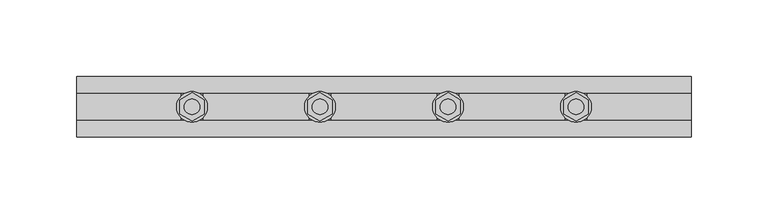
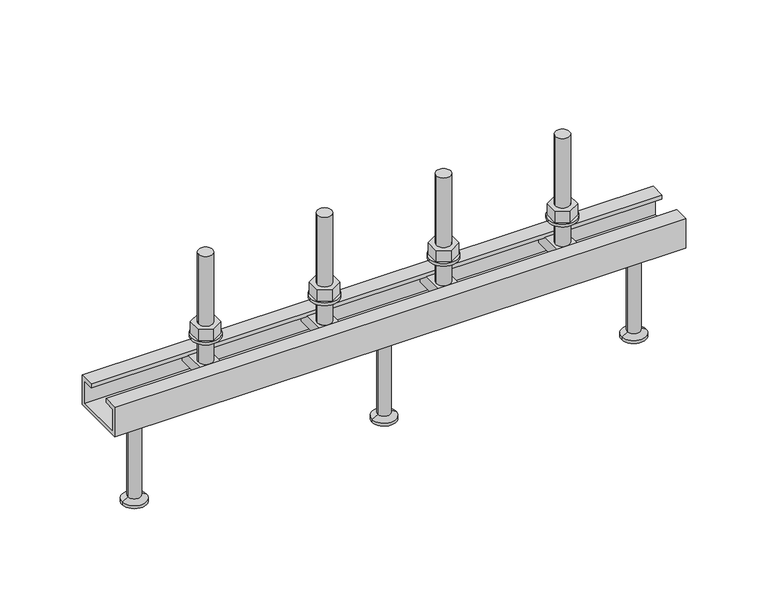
"""IFC4 building model written with IfcOpenShell, lengths in millimetres: fastener geometry, JTA-W JORDAHL® AnchorChannels : JTA-W L=400 mm."""

from ifc_helpers import new_model, si_unit, point, frame, frame_2d, origin, place, context, project, spatial, polyline, circle_curve, trimmed, segment, composite_curve, outline, extrude, source, transform, mapped, element, save
from ifc_brep_helpers import plane_surface, cylinder_surface, revolved_surface, advanced_brep


def fastener_f6934170(model_context):
    return source(origin(), model_context, "Body", "SolidModel", [
        extrude(outline(polyline([(241.6666667, 9.2376043), (249.6666667, 4.6188022), (249.6666667, -4.6188022), (241.6666667, -9.2376043), (233.6666667, -4.6188022), (233.6666667, 4.6188022), (241.6666667, 9.2376043)]), holes=[composite_curve([segment(trimmed(circle_curve(frame_2d((241.6666667, 0.0)), 5.0), [point((236.6666667, 0.0))], [point((246.6666667, 0.0))], True, "CARTESIAN"), True, "CONTINUOUS"), segment(trimmed(circle_curve(frame_2d((241.6666667, 0.0)), 5.0), [point((246.6666667, 0.0))], [point((236.6666667, 0.0))], True, "CARTESIAN"), True, "CONTINUOUS")], self_intersect=False)]), frame((0.0, 0.0, 17.0), z_axis=(0.0, 0.0, 1.0), x_axis=(1.0, 0.0, 0.0)), (0.0, 0.0, 1.0), 8.4),
        extrude(outline(composite_curve([segment(trimmed(circle_curve(frame_2d((241.6666667, 0.0)), 10.0), [point((231.6666667, 0.0))], [point((251.6666667, 0.0))], False, "CARTESIAN"), True, "CONTINUOUS"), segment(trimmed(circle_curve(frame_2d((241.6666667, 0.0)), 10.0), [point((251.6666667, 0.0))], [point((231.6666667, 0.0))], False, "CARTESIAN"), True, "CONTINUOUS")], self_intersect=False), holes=[composite_curve([segment(trimmed(circle_curve(frame_2d((241.6666667, 0.0)), 5.25), [point((236.4166667, 0.0))], [point((246.9166667, 0.0))], True, "CARTESIAN"), True, "CONTINUOUS"), segment(trimmed(circle_curve(frame_2d((241.6666667, 0.0)), 5.25), [point((246.9166667, 0.0))], [point((236.4166667, 0.0))], True, "CARTESIAN"), True, "CONTINUOUS")], self_intersect=False)]), frame((0.0, 0.0, 15.0), z_axis=(0.0, 0.0, 1.0), x_axis=(1.0, 0.0, 0.0)), (0.0, 0.0, 1.0), 2.0),
        extrude(outline(polyline([(158.3333333, 9.2376043), (166.3333333, 4.6188022), (166.3333333, -4.6188022), (158.3333333, -9.2376043), (150.3333333, -4.6188022), (150.3333333, 4.6188022), (158.3333333, 9.2376043)]), holes=[composite_curve([segment(trimmed(circle_curve(frame_2d((158.3333333, 0.0)), 5.0), [point((153.3333333, 0.0))], [point((163.3333333, 0.0))], True, "CARTESIAN"), True, "CONTINUOUS"), segment(trimmed(circle_curve(frame_2d((158.3333333, 0.0)), 5.0), [point((163.3333333, 0.0))], [point((153.3333333, 0.0))], True, "CARTESIAN"), True, "CONTINUOUS")], self_intersect=False)]), frame((0.0, 0.0, 17.0), z_axis=(0.0, 0.0, 1.0), x_axis=(1.0, 0.0, 0.0)), (0.0, 0.0, 1.0), 8.4),
        extrude(outline(composite_curve([segment(trimmed(circle_curve(frame_2d((158.3333333, 0.0)), 10.0), [point((148.3333333, 0.0))], [point((168.3333333, 0.0))], False, "CARTESIAN"), True, "CONTINUOUS"), segment(trimmed(circle_curve(frame_2d((158.3333333, 0.0)), 10.0), [point((168.3333333, 0.0))], [point((148.3333333, 0.0))], False, "CARTESIAN"), True, "CONTINUOUS")], self_intersect=False), holes=[composite_curve([segment(trimmed(circle_curve(frame_2d((158.3333333, 0.0)), 5.25), [point((153.0833333, 0.0))], [point((163.5833333, 0.0))], True, "CARTESIAN"), True, "CONTINUOUS"), segment(trimmed(circle_curve(frame_2d((158.3333333, 0.0)), 5.25), [point((163.5833333, 0.0))], [point((153.0833333, 0.0))], True, "CARTESIAN"), True, "CONTINUOUS")], self_intersect=False)]), frame((0.0, 0.0, 15.0), z_axis=(0.0, 0.0, 1.0), x_axis=(1.0, 0.0, 0.0)), (0.0, 0.0, 1.0), 2.0),
        advanced_brep(
        [(248.6666667, 16.25, -3.0), (248.6666667, -16.25, -3.0), (248.6666667, -16.25, -11.0), (248.6666667, 16.25, -11.0), (234.6666667, 16.25, -3.0), (234.6666667, 16.25, -11.0), (234.6666667, -16.25, -11.0), (234.6666667, -16.25, -3.0), (246.6666667, 0.0, -3.0), (236.6666667, 0.0, -3.0), (236.6666667, 0.0, 77.0), (246.6666667, 0.0, 77.0)],
        [
            (0, 1),
            (1, 2),
            (2, 3),
            (3, 0),
            (4, 5),
            (5, 6),
            (6, 7),
            (7, 4),
            (0, 4),
            (7, 1),
            (8, 9, circle_curve(frame((241.6666667, 0.0, -3.0), z_axis=(0.0, 0.0, -1.0), x_axis=(1.0, 0.0, 0.0)), 5.0)),
            (9, 8, circle_curve(frame((241.6666667, 0.0, -3.0), z_axis=(0.0, 0.0, -1.0), x_axis=(1.0, 0.0, 0.0)), 5.0)),
            (6, 2),
            (5, 3),
            (10, 11, circle_curve(frame((241.6666667, 0.0, 77.0), z_axis=(0.0, 0.0, 1.0), x_axis=(1.0, 0.0, 0.0)), 5.0)),
            (11, 10, circle_curve(frame((241.6666667, 0.0, 77.0), z_axis=(0.0, 0.0, 1.0), x_axis=(1.0, 0.0, 0.0)), 5.0)),
            (10, 9),
            (8, 11),
        ],
        [
            plane_surface(frame((248.6666667, -16.25, -3.0), z_axis=(1.0, 0.0, 0.0), x_axis=(0.0, -1.0, 0.0))),
            plane_surface(frame((234.6666667, -16.25, -3.0), z_axis=(-1.0, 0.0, 0.0), x_axis=(0.0, 1.0, 0.0))),
            plane_surface(frame((248.6666667, 16.25, -3.0), z_axis=(0.0, 0.0, 1.0), x_axis=(-1.0, 0.0, 0.0))),
            plane_surface(frame((248.6666667, -16.25, -3.0), z_axis=(0.0, -1.0, 0.0), x_axis=(-1.0, 0.0, 0.0))),
            plane_surface(frame((248.6666667, -16.25, -11.0), z_axis=(0.0, 0.0, -1.0), x_axis=(-1.0, 0.0, 0.0))),
            plane_surface(frame((248.6666667, 16.25, -11.0), z_axis=(0.0, 1.0, 0.0), x_axis=(-1.0, 0.0, 0.0))),
            plane_surface(frame((246.6666667, 0.0, 77.0), z_axis=(0.0, 0.0, 1.0), x_axis=(0.0, 1.0, 0.0))),
            cylinder_surface(frame((241.6666667, 0.0, -3.0), z_axis=(0.0, 0.0, 1.0), x_axis=(1.0, 0.0, 0.0)), 5.0),
        ],
        [
            (0, [[1, 2, 3, 4]]),
            (1, [[5, 6, 7, 8]]),
            (2, [[-1, 9, -8, 10], [11, 12]]),
            (3, [[-2, -10, -7, 13]]),
            (4, [[-3, -13, -6, 14]]),
            (5, [[-4, -14, -5, -9]]),
            (6, [[15, 16]]),
            (7, [[-15, 17, -11, 18]]),
            (7, [[-16, -18, -12, -17]]),
        ],
    ),
        advanced_brep(
        [(165.3333333, 16.25, -3.0), (165.3333333, -16.25, -3.0), (165.3333333, -16.25, -11.0), (165.3333333, 16.25, -11.0), (151.3333333, 16.25, -3.0), (151.3333333, 16.25, -11.0), (151.3333333, -16.25, -11.0), (151.3333333, -16.25, -3.0), (163.3333333, 0.0, -3.0), (153.3333333, 0.0, -3.0), (153.3333333, 0.0, 77.0), (163.3333333, 0.0, 77.0)],
        [
            (0, 1),
            (1, 2),
            (2, 3),
            (3, 0),
            (4, 5),
            (5, 6),
            (6, 7),
            (7, 4),
            (0, 4),
            (7, 1),
            (8, 9, circle_curve(frame((158.3333333, 0.0, -3.0), z_axis=(0.0, 0.0, -1.0), x_axis=(1.0, 0.0, 0.0)), 5.0)),
            (9, 8, circle_curve(frame((158.3333333, 0.0, -3.0), z_axis=(0.0, 0.0, -1.0), x_axis=(1.0, 0.0, 0.0)), 5.0)),
            (6, 2),
            (5, 3),
            (10, 11, circle_curve(frame((158.3333333, 0.0, 77.0), z_axis=(0.0, 0.0, 1.0), x_axis=(1.0, 0.0, 0.0)), 5.0)),
            (11, 10, circle_curve(frame((158.3333333, 0.0, 77.0), z_axis=(0.0, 0.0, 1.0), x_axis=(1.0, 0.0, 0.0)), 5.0)),
            (10, 9),
            (8, 11),
        ],
        [
            plane_surface(frame((165.3333333, -16.25, -3.0), z_axis=(1.0, 0.0, 0.0), x_axis=(0.0, -1.0, 0.0))),
            plane_surface(frame((151.3333333, -16.25, -3.0), z_axis=(-1.0, 0.0, 0.0), x_axis=(0.0, 1.0, 0.0))),
            plane_surface(frame((165.3333333, 16.25, -3.0), z_axis=(0.0, 0.0, 1.0), x_axis=(-1.0, 0.0, 0.0))),
            plane_surface(frame((165.3333333, -16.25, -3.0), z_axis=(0.0, -1.0, 0.0), x_axis=(-1.0, 0.0, 0.0))),
            plane_surface(frame((165.3333333, -16.25, -11.0), z_axis=(0.0, 0.0, -1.0), x_axis=(-1.0, 0.0, 0.0))),
            plane_surface(frame((165.3333333, 16.25, -11.0), z_axis=(0.0, 1.0, 0.0), x_axis=(-1.0, 0.0, 0.0))),
            plane_surface(frame((163.3333333, 0.0, 77.0), z_axis=(0.0, 0.0, 1.0), x_axis=(0.0, 1.0, 0.0))),
            cylinder_surface(frame((158.3333333, 0.0, -3.0), z_axis=(0.0, 0.0, 1.0), x_axis=(1.0, 0.0, 0.0)), 5.0),
        ],
        [
            (0, [[1, 2, 3, 4]]),
            (1, [[5, 6, 7, 8]]),
            (2, [[-1, 9, -8, 10], [11, 12]]),
            (3, [[-2, -10, -7, 13]]),
            (4, [[-3, -13, -6, 14]]),
            (5, [[-4, -14, -5, -9]]),
            (6, [[15, 16]]),
            (7, [[-15, 17, -11, 18]]),
            (7, [[-16, -18, -12, -17]]),
        ],
    ),
        advanced_brep(
        [(200.0, 0.0, -22.0), (213.5, 0.0, -22.0), (186.5, 0.0, -22.0), (191.5, 0.0, -90.0), (208.5, 0.0, -90.0), (200.0, 0.0, -90.0), (191.5, 0.0, -88.0), (208.5, 0.0, -88.0), (195.5, 0.0, -85.6905989), (204.5, 0.0, -85.6905989), (195.5, 0.0, -24.5), (204.5, 0.0, -24.5)],
        [
            (0, 1),
            (1, 2, circle_curve(frame((200.0, 0.0, -22.0), z_axis=(0.0, 0.0, 1.0), x_axis=(1.0, 0.0, 0.0)), 13.5)),
            (2, 0),
            (2, 1, circle_curve(frame((200.0, 0.0, -22.0), z_axis=(0.0, 0.0, 1.0), x_axis=(1.0, 0.0, 0.0)), 13.5)),
            (3, 4, circle_curve(frame((200.0, 0.0, -90.0), z_axis=(0.0, 0.0, -1.0), x_axis=(1.0, 0.0, 0.0)), 8.5)),
            (4, 5),
            (5, 3),
            (4, 3, circle_curve(frame((200.0, 0.0, -90.0), z_axis=(0.0, 0.0, -1.0), x_axis=(1.0, 0.0, 0.0)), 8.5)),
            (6, 7, circle_curve(frame((200.0, 0.0, -88.0), z_axis=(0.0, 0.0, -1.0), x_axis=(1.0, 0.0, 0.0)), 8.5)),
            (7, 4),
            (3, 6),
            (7, 6, circle_curve(frame((200.0, 0.0, -88.0), z_axis=(0.0, 0.0, -1.0), x_axis=(1.0, 0.0, 0.0)), 8.5)),
            (8, 9, circle_curve(frame((200.0, 0.0, -85.6905989), z_axis=(0.0, 0.0, -1.0), x_axis=(1.0, 0.0, 0.0)), 4.5)),
            (9, 7),
            (6, 8),
            (9, 8, circle_curve(frame((200.0, 0.0, -85.6905989), z_axis=(0.0, 0.0, -1.0), x_axis=(1.0, 0.0, 0.0)), 4.5)),
            (10, 11, circle_curve(frame((200.0, 0.0, -24.5), z_axis=(0.0, 0.0, -1.0), x_axis=(1.0, 0.0, 0.0)), 4.5)),
            (11, 9),
            (8, 10),
            (11, 10, circle_curve(frame((200.0, 0.0, -24.5), z_axis=(0.0, 0.0, -1.0), x_axis=(1.0, 0.0, 0.0)), 4.5)),
            (1, 11),
            (10, 2),
        ],
        [
            plane_surface(frame((200.0, 0.0, -22.0), z_axis=(0.0, 0.0, 1.0), x_axis=(1.0, 0.0, 0.0))),
            plane_surface(frame((200.0, 0.0, -90.0), z_axis=(0.0, 0.0, -1.0), x_axis=(1.0, 0.0, 0.0))),
            cylinder_surface(frame((200.0, 0.0, 2282.3150031), z_axis=(0.0, 0.0, 1.0), x_axis=(1.0, 0.0, 0.0)), 8.5),
            revolved_surface(polyline([(208.5, 0.0, -88.0), (204.5, 0.0, -85.6905989)]), (200.0, 0.0, 2282.3150031), (0.0, 0.0, 1.0)),
            cylinder_surface(frame((200.0, 0.0, 2282.3150031), z_axis=(0.0, 0.0, 1.0), x_axis=(1.0, 0.0, 0.0)), 4.5),
            revolved_surface(polyline([(204.5, 0.0, -24.5), (213.5, 0.0, -22.0)]), (200.0, 0.0, 2282.3150031), (0.0, 0.0, 1.0)),
        ],
        [
            (0, [[1, 2, 3]]),
            (0, [[-3, 4, -1]]),
            (1, [[5, 6, 7]]),
            (1, [[8, -7, -6]]),
            (2, [[9, 10, -5, 11]]),
            (2, [[12, -11, -8, -10]]),
            (3, [[13, 14, -9, 15]]),
            (3, [[16, -15, -12, -14]]),
            (4, [[17, 18, -13, 19]]),
            (4, [[20, -19, -16, -18]]),
            (5, [[-2, 21, -17, 22]]),
            (5, [[-4, -22, -20, -21]]),
        ],
    ),
        extrude(outline(polyline([(325.0, 9.2376043), (333.0, 4.6188022), (333.0, -4.6188022), (325.0, -9.2376043), (317.0, -4.6188022), (317.0, 4.6188022), (325.0, 9.2376043)]), holes=[composite_curve([segment(trimmed(circle_curve(frame_2d((325.0, 0.0)), 5.0), [point((320.0, 0.0))], [point((330.0, 0.0))], True, "CARTESIAN"), True, "CONTINUOUS"), segment(trimmed(circle_curve(frame_2d((325.0, 0.0)), 5.0), [point((330.0, 0.0))], [point((320.0, 0.0))], True, "CARTESIAN"), True, "CONTINUOUS")], self_intersect=False)]), frame((0.0, 0.0, 17.0), z_axis=(0.0, 0.0, 1.0), x_axis=(1.0, 0.0, 0.0)), (0.0, 0.0, 1.0), 8.4),
        extrude(outline(composite_curve([segment(trimmed(circle_curve(frame_2d((325.0, 0.0)), 10.0), [point((315.0, 0.0))], [point((335.0, 0.0))], False, "CARTESIAN"), True, "CONTINUOUS"), segment(trimmed(circle_curve(frame_2d((325.0, 0.0)), 10.0), [point((335.0, 0.0))], [point((315.0, 0.0))], False, "CARTESIAN"), True, "CONTINUOUS")], self_intersect=False), holes=[composite_curve([segment(trimmed(circle_curve(frame_2d((325.0, 0.0)), 5.25), [point((319.75, 0.0))], [point((330.25, 0.0))], True, "CARTESIAN"), True, "CONTINUOUS"), segment(trimmed(circle_curve(frame_2d((325.0, 0.0)), 5.25), [point((330.25, 0.0))], [point((319.75, 0.0))], True, "CARTESIAN"), True, "CONTINUOUS")], self_intersect=False)]), frame((0.0, 0.0, 15.0), z_axis=(0.0, 0.0, 1.0), x_axis=(1.0, 0.0, 0.0)), (0.0, 0.0, 1.0), 2.0),
        extrude(outline(polyline([(75.0, 9.2376043), (83.0, 4.6188022), (83.0, -4.6188022), (75.0, -9.2376043), (67.0, -4.6188022), (67.0, 4.6188022), (75.0, 9.2376043)]), holes=[composite_curve([segment(trimmed(circle_curve(frame_2d((75.0, 0.0)), 5.0), [point((70.0, 0.0))], [point((80.0, 0.0))], True, "CARTESIAN"), True, "CONTINUOUS"), segment(trimmed(circle_curve(frame_2d((75.0, 0.0)), 5.0), [point((80.0, 0.0))], [point((70.0, 0.0))], True, "CARTESIAN"), True, "CONTINUOUS")], self_intersect=False)]), frame((0.0, 0.0, 17.0), z_axis=(0.0, 0.0, 1.0), x_axis=(1.0, 0.0, 0.0)), (0.0, 0.0, 1.0), 8.4),
        extrude(outline(composite_curve([segment(trimmed(circle_curve(frame_2d((75.0, 0.0)), 10.0), [point((65.0, 0.0))], [point((85.0, 0.0))], False, "CARTESIAN"), True, "CONTINUOUS"), segment(trimmed(circle_curve(frame_2d((75.0, 0.0)), 10.0), [point((85.0, 0.0))], [point((65.0, 0.0))], False, "CARTESIAN"), True, "CONTINUOUS")], self_intersect=False), holes=[composite_curve([segment(trimmed(circle_curve(frame_2d((75.0, 0.0)), 5.25), [point((69.75, 0.0))], [point((80.25, 0.0))], True, "CARTESIAN"), True, "CONTINUOUS"), segment(trimmed(circle_curve(frame_2d((75.0, 0.0)), 5.25), [point((80.25, 0.0))], [point((69.75, 0.0))], True, "CARTESIAN"), True, "CONTINUOUS")], self_intersect=False)]), frame((0.0, 0.0, 15.0), z_axis=(0.0, 0.0, 1.0), x_axis=(1.0, 0.0, 0.0)), (0.0, 0.0, 1.0), 2.0),
        advanced_brep(
        [(332.0, 16.25, -3.0), (332.0, -16.25, -3.0), (332.0, -16.25, -11.0), (332.0, 16.25, -11.0), (318.0, 16.25, -3.0), (318.0, 16.25, -11.0), (318.0, -16.25, -11.0), (318.0, -16.25, -3.0), (330.0, 0.0, -3.0), (320.0, 0.0, -3.0), (320.0, 0.0, 77.0), (330.0, 0.0, 77.0)],
        [
            (0, 1),
            (1, 2),
            (2, 3),
            (3, 0),
            (4, 5),
            (5, 6),
            (6, 7),
            (7, 4),
            (0, 4),
            (7, 1),
            (8, 9, circle_curve(frame((325.0, 0.0, -3.0), z_axis=(0.0, 0.0, -1.0), x_axis=(1.0, 0.0, 0.0)), 5.0)),
            (9, 8, circle_curve(frame((325.0, 0.0, -3.0), z_axis=(0.0, 0.0, -1.0), x_axis=(1.0, 0.0, 0.0)), 5.0)),
            (6, 2),
            (5, 3),
            (10, 11, circle_curve(frame((325.0, 0.0, 77.0), z_axis=(0.0, 0.0, 1.0), x_axis=(1.0, 0.0, 0.0)), 5.0)),
            (11, 10, circle_curve(frame((325.0, 0.0, 77.0), z_axis=(0.0, 0.0, 1.0), x_axis=(1.0, 0.0, 0.0)), 5.0)),
            (10, 9),
            (8, 11),
        ],
        [
            plane_surface(frame((332.0, -16.25, -3.0), z_axis=(1.0, 0.0, 0.0), x_axis=(0.0, -1.0, 0.0))),
            plane_surface(frame((318.0, -16.25, -3.0), z_axis=(-1.0, 0.0, 0.0), x_axis=(0.0, 1.0, 0.0))),
            plane_surface(frame((332.0, 16.25, -3.0), z_axis=(0.0, 0.0, 1.0), x_axis=(-1.0, 0.0, 0.0))),
            plane_surface(frame((332.0, -16.25, -3.0), z_axis=(0.0, -1.0, 0.0), x_axis=(-1.0, 0.0, 0.0))),
            plane_surface(frame((332.0, -16.25, -11.0), z_axis=(0.0, 0.0, -1.0), x_axis=(-1.0, 0.0, 0.0))),
            plane_surface(frame((332.0, 16.25, -11.0), z_axis=(0.0, 1.0, 0.0), x_axis=(-1.0, 0.0, 0.0))),
            plane_surface(frame((330.0, 0.0, 77.0), z_axis=(0.0, 0.0, 1.0), x_axis=(0.0, 1.0, 0.0))),
            cylinder_surface(frame((325.0, 0.0, -3.0), z_axis=(0.0, 0.0, 1.0), x_axis=(1.0, 0.0, 0.0)), 5.0),
        ],
        [
            (0, [[1, 2, 3, 4]]),
            (1, [[5, 6, 7, 8]]),
            (2, [[-1, 9, -8, 10], [11, 12]]),
            (3, [[-2, -10, -7, 13]]),
            (4, [[-3, -13, -6, 14]]),
            (5, [[-4, -14, -5, -9]]),
            (6, [[15, 16]]),
            (7, [[-15, 17, -11, 18]]),
            (7, [[-16, -18, -12, -17]]),
        ],
    ),
        advanced_brep(
        [(82.0, 16.25, -3.0), (82.0, -16.25, -3.0), (82.0, -16.25, -11.0), (82.0, 16.25, -11.0), (68.0, 16.25, -3.0), (68.0, 16.25, -11.0), (68.0, -16.25, -11.0), (68.0, -16.25, -3.0), (80.0, 0.0, -3.0), (70.0, 0.0, -3.0), (70.0, 0.0, 77.0), (80.0, 0.0, 77.0)],
        [
            (0, 1),
            (1, 2),
            (2, 3),
            (3, 0),
            (4, 5),
            (5, 6),
            (6, 7),
            (7, 4),
            (0, 4),
            (7, 1),
            (8, 9, circle_curve(frame((75.0, 0.0, -3.0), z_axis=(0.0, 0.0, -1.0), x_axis=(1.0, 0.0, 0.0)), 5.0)),
            (9, 8, circle_curve(frame((75.0, 0.0, -3.0), z_axis=(0.0, 0.0, -1.0), x_axis=(1.0, 0.0, 0.0)), 5.0)),
            (6, 2),
            (5, 3),
            (10, 11, circle_curve(frame((75.0, 0.0, 77.0), z_axis=(0.0, 0.0, 1.0), x_axis=(1.0, 0.0, 0.0)), 5.0)),
            (11, 10, circle_curve(frame((75.0, 0.0, 77.0), z_axis=(0.0, 0.0, 1.0), x_axis=(1.0, 0.0, 0.0)), 5.0)),
            (10, 9),
            (8, 11),
        ],
        [
            plane_surface(frame((82.0, -16.25, -3.0), z_axis=(1.0, 0.0, 0.0), x_axis=(0.0, -1.0, 0.0))),
            plane_surface(frame((68.0, -16.25, -3.0), z_axis=(-1.0, 0.0, 0.0), x_axis=(0.0, 1.0, 0.0))),
            plane_surface(frame((82.0, 16.25, -3.0), z_axis=(0.0, 0.0, 1.0), x_axis=(-1.0, 0.0, 0.0))),
            plane_surface(frame((82.0, -16.25, -3.0), z_axis=(0.0, -1.0, 0.0), x_axis=(-1.0, 0.0, 0.0))),
            plane_surface(frame((82.0, -16.25, -11.0), z_axis=(0.0, 0.0, -1.0), x_axis=(-1.0, 0.0, 0.0))),
            plane_surface(frame((82.0, 16.25, -11.0), z_axis=(0.0, 1.0, 0.0), x_axis=(-1.0, 0.0, 0.0))),
            plane_surface(frame((80.0, 0.0, 77.0), z_axis=(0.0, 0.0, 1.0), x_axis=(0.0, 1.0, 0.0))),
            cylinder_surface(frame((75.0, 0.0, -3.0), z_axis=(0.0, 0.0, 1.0), x_axis=(1.0, 0.0, 0.0)), 5.0),
        ],
        [
            (0, [[1, 2, 3, 4]]),
            (1, [[5, 6, 7, 8]]),
            (2, [[-1, 9, -8, 10], [11, 12]]),
            (3, [[-2, -10, -7, 13]]),
            (4, [[-3, -13, -6, 14]]),
            (5, [[-4, -14, -5, -9]]),
            (6, [[15, 16]]),
            (7, [[-15, 17, -11, 18]]),
            (7, [[-16, -18, -12, -17]]),
        ],
    ),
        advanced_brep(
        [(375.0, 0.0, -22.0), (388.5, 0.0, -22.0), (361.5, 0.0, -22.0), (366.5, 0.0, -90.0), (383.5, 0.0, -90.0), (375.0, 0.0, -90.0), (366.5, 0.0, -88.0), (383.5, 0.0, -88.0), (370.5, 0.0, -85.6905989), (379.5, 0.0, -85.6905989), (370.5, 0.0, -24.5), (379.5, 0.0, -24.5)],
        [
            (0, 1),
            (1, 2, circle_curve(frame((375.0, 0.0, -22.0), z_axis=(0.0, 0.0, 1.0), x_axis=(1.0, 0.0, 0.0)), 13.5)),
            (2, 0),
            (2, 1, circle_curve(frame((375.0, 0.0, -22.0), z_axis=(0.0, 0.0, 1.0), x_axis=(1.0, 0.0, 0.0)), 13.5)),
            (3, 4, circle_curve(frame((375.0, 0.0, -90.0), z_axis=(0.0, 0.0, -1.0), x_axis=(1.0, 0.0, 0.0)), 8.5)),
            (4, 5),
            (5, 3),
            (4, 3, circle_curve(frame((375.0, 0.0, -90.0), z_axis=(0.0, 0.0, -1.0), x_axis=(1.0, 0.0, 0.0)), 8.5)),
            (6, 7, circle_curve(frame((375.0, 0.0, -88.0), z_axis=(0.0, 0.0, -1.0), x_axis=(1.0, 0.0, 0.0)), 8.5)),
            (7, 4),
            (3, 6),
            (7, 6, circle_curve(frame((375.0, 0.0, -88.0), z_axis=(0.0, 0.0, -1.0), x_axis=(1.0, 0.0, 0.0)), 8.5)),
            (8, 9, circle_curve(frame((375.0, 0.0, -85.6905989), z_axis=(0.0, 0.0, -1.0), x_axis=(1.0, 0.0, 0.0)), 4.5)),
            (9, 7),
            (6, 8),
            (9, 8, circle_curve(frame((375.0, 0.0, -85.6905989), z_axis=(0.0, 0.0, -1.0), x_axis=(1.0, 0.0, 0.0)), 4.5)),
            (10, 11, circle_curve(frame((375.0, 0.0, -24.5), z_axis=(0.0, 0.0, -1.0), x_axis=(1.0, 0.0, 0.0)), 4.5)),
            (11, 9),
            (8, 10),
            (11, 10, circle_curve(frame((375.0, 0.0, -24.5), z_axis=(0.0, 0.0, -1.0), x_axis=(1.0, 0.0, 0.0)), 4.5)),
            (1, 11),
            (10, 2),
        ],
        [
            plane_surface(frame((375.0, 0.0, -22.0), z_axis=(0.0, 0.0, 1.0), x_axis=(1.0, 0.0, 0.0))),
            plane_surface(frame((375.0, 0.0, -90.0), z_axis=(0.0, 0.0, -1.0), x_axis=(1.0, 0.0, 0.0))),
            cylinder_surface(frame((375.0, 0.0, 2282.3150031), z_axis=(0.0, 0.0, 1.0), x_axis=(1.0, 0.0, 0.0)), 8.5),
            revolved_surface(polyline([(383.5, 0.0, -88.0), (379.5, 0.0, -85.6905989)]), (375.0, 0.0, 2282.3150031), (0.0, 0.0, 1.0)),
            cylinder_surface(frame((375.0, 0.0, 2282.3150031), z_axis=(0.0, 0.0, 1.0), x_axis=(1.0, 0.0, 0.0)), 4.5),
            revolved_surface(polyline([(379.5, 0.0, -24.5), (388.5, 0.0, -22.0)]), (375.0, 0.0, 2282.3150031), (0.0, 0.0, 1.0)),
        ],
        [
            (0, [[1, 2, 3]]),
            (0, [[-3, 4, -1]]),
            (1, [[5, 6, 7]]),
            (1, [[8, -7, -6]]),
            (2, [[9, 10, -5, 11]]),
            (2, [[12, -11, -8, -10]]),
            (3, [[13, 14, -9, 15]]),
            (3, [[16, -15, -12, -14]]),
            (4, [[17, 18, -13, 19]]),
            (4, [[20, -19, -16, -18]]),
            (5, [[-2, 21, -17, 22]]),
            (5, [[-4, -22, -20, -21]]),
        ],
    ),
        advanced_brep(
        [(25.0, 0.0, -22.0), (38.5, 0.0, -22.0), (11.5, 0.0, -22.0), (16.5, 0.0, -90.0), (33.5, 0.0, -90.0), (25.0, 0.0, -90.0), (16.5, 0.0, -88.0), (33.5, 0.0, -88.0), (20.5, 0.0, -85.6905989), (29.5, 0.0, -85.6905989), (20.5, 0.0, -24.5), (29.5, 0.0, -24.5)],
        [
            (0, 1),
            (1, 2, circle_curve(frame((25.0, 0.0, -22.0), z_axis=(0.0, 0.0, 1.0), x_axis=(1.0, 0.0, 0.0)), 13.5)),
            (2, 0),
            (2, 1, circle_curve(frame((25.0, 0.0, -22.0), z_axis=(0.0, 0.0, 1.0), x_axis=(1.0, 0.0, 0.0)), 13.5)),
            (3, 4, circle_curve(frame((25.0, 0.0, -90.0), z_axis=(0.0, 0.0, -1.0), x_axis=(1.0, 0.0, 0.0)), 8.5)),
            (4, 5),
            (5, 3),
            (4, 3, circle_curve(frame((25.0, 0.0, -90.0), z_axis=(0.0, 0.0, -1.0), x_axis=(1.0, 0.0, 0.0)), 8.5)),
            (6, 7, circle_curve(frame((25.0, 0.0, -88.0), z_axis=(0.0, 0.0, -1.0), x_axis=(1.0, 0.0, 0.0)), 8.5)),
            (7, 4),
            (3, 6),
            (7, 6, circle_curve(frame((25.0, 0.0, -88.0), z_axis=(0.0, 0.0, -1.0), x_axis=(1.0, 0.0, 0.0)), 8.5)),
            (8, 9, circle_curve(frame((25.0, 0.0, -85.6905989), z_axis=(0.0, 0.0, -1.0), x_axis=(1.0, 0.0, 0.0)), 4.5)),
            (9, 7),
            (6, 8),
            (9, 8, circle_curve(frame((25.0, 0.0, -85.6905989), z_axis=(0.0, 0.0, -1.0), x_axis=(1.0, 0.0, 0.0)), 4.5)),
            (10, 11, circle_curve(frame((25.0, 0.0, -24.5), z_axis=(0.0, 0.0, -1.0), x_axis=(1.0, 0.0, 0.0)), 4.5)),
            (11, 9),
            (8, 10),
            (11, 10, circle_curve(frame((25.0, 0.0, -24.5), z_axis=(0.0, 0.0, -1.0), x_axis=(1.0, 0.0, 0.0)), 4.5)),
            (1, 11),
            (10, 2),
        ],
        [
            plane_surface(frame((25.0, 0.0, -22.0), z_axis=(0.0, 0.0, 1.0), x_axis=(1.0, 0.0, 0.0))),
            plane_surface(frame((25.0, 0.0, -90.0), z_axis=(0.0, 0.0, -1.0), x_axis=(1.0, 0.0, 0.0))),
            cylinder_surface(frame((25.0, 0.0, 2282.3150031), z_axis=(0.0, 0.0, 1.0), x_axis=(1.0, 0.0, 0.0)), 8.5),
            revolved_surface(polyline([(33.5, 0.0, -88.0), (29.5, 0.0, -85.6905989)]), (25.0, 0.0, 2282.3150031), (0.0, 0.0, 1.0)),
            cylinder_surface(frame((25.0, 0.0, 2282.3150031), z_axis=(0.0, 0.0, 1.0), x_axis=(1.0, 0.0, 0.0)), 4.5),
            revolved_surface(polyline([(29.5, 0.0, -24.5), (38.5, 0.0, -22.0)]), (25.0, 0.0, 2282.3150031), (0.0, 0.0, 1.0)),
        ],
        [
            (0, [[1, 2, 3]]),
            (0, [[-3, 4, -1]]),
            (1, [[5, 6, 7]]),
            (1, [[8, -7, -6]]),
            (2, [[9, 10, -5, 11]]),
            (2, [[12, -11, -8, -10]]),
            (3, [[13, 14, -9, 15]]),
            (3, [[16, -15, -12, -14]]),
            (4, [[17, 18, -13, 19]]),
            (4, [[20, -19, -16, -18]]),
            (5, [[-2, 21, -17, 22]]),
            (5, [[-4, -22, -20, -21]]),
        ],
    ),
        extrude(outline(polyline([(19.75, 0.0), (19.75, -22.0), (-19.75, -22.0), (-19.75, 0.0), (-9.0, 0.0), (-9.0, -3.0), (-17.25, -3.0), (-17.25, -19.5), (17.25, -19.5), (17.25, -3.0), (9.0, -3.0), (9.0, 0.0), (19.75, 0.0)])), frame((0.0, 0.0, 0.0), z_axis=(1.0, 0.0, 0.0), x_axis=(0.0, 1.0, 0.0)), (0.0, 0.0, 1.0), 400.0),
    ])


if __name__ == "__main__":
    model = new_model("IFC4")
    model_context = context("Model", 3, world=origin())
    ifc_project = project(units=[si_unit("LENGTHUNIT", "METRE", prefix="MILLI")], contexts=[model_context])
    site = spatial("IfcSite", under=ifc_project)
    building = spatial("IfcBuilding", under=site)
    placement = place(None, origin())
    fastener_shape = fastener_f6934170(model_context)
    element("IfcFastener", 1, ObjectType="JTA-W JORDAHL® AnchorChannels : JTA-W L=400 mm", at=placement, inside=building, context=model_context, shape_type="MappedRepresentation", body=[
        mapped(fastener_shape, transform((0.0, 0.0, 0.0), x_axis=(1.0, 0.0, 0.0), y_axis=(0.0, 1.0, 0.0), z_axis=(0.0, 0.0, 1.0))),
    ])
    save(model, "model.ifc")
